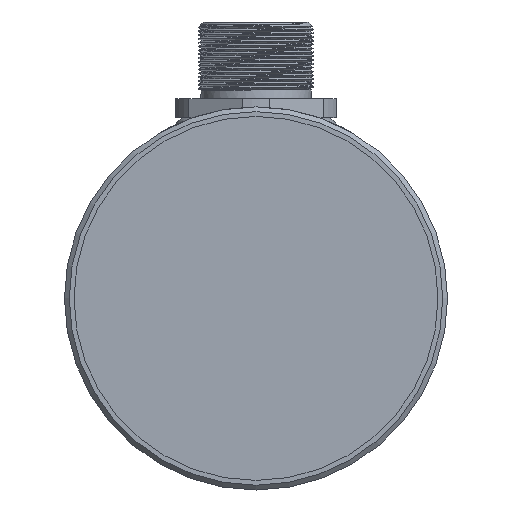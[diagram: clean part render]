
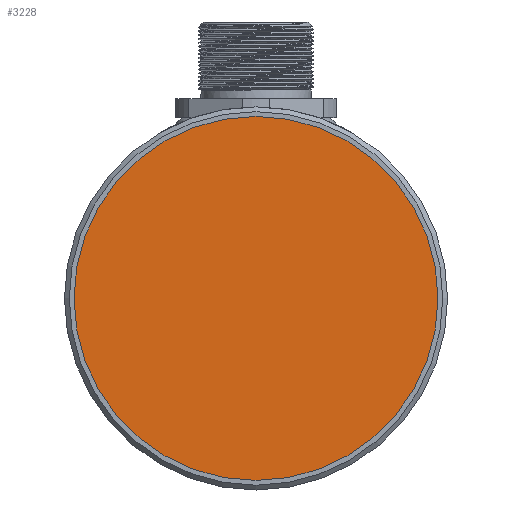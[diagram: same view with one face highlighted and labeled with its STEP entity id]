
A CAD part, left-side view. The second image highlights one B-rep face of the part: STEP entity #3228.
In plain terms, the highlighted planar face has unit normal (-1, 0, 0).
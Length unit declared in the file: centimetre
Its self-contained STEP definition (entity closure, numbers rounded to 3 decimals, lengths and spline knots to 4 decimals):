
#934=PLANE('',#3431);
#1006=CIRCLE('',#3429,1.9);
#1100=VERTEX_POINT('',#4250);
#1488=EDGE_CURVE('',#1100,#1100,#1006,.T.);
#1905=ORIENTED_EDGE('',*,*,#1488,.T.);
#2734=EDGE_LOOP('',(#1905));
#2983=FACE_BOUND('',#2734,.T.);
#3228=ADVANCED_FACE('',(#2983),#934,.T.);
#3429=AXIS2_PLACEMENT_3D('',#4249,#3662,#3663);
#3431=AXIS2_PLACEMENT_3D('',#4253,#3666,$);
#3662=DIRECTION('',(-1.,0.,0.));
#3663=DIRECTION('',(0.,0.,1.9));
#3666=DIRECTION('',(-1.,0.,0.));
#4249=CARTESIAN_POINT('',(0.1,0.,0.));
#4250=CARTESIAN_POINT('',(0.1,0.,1.9));
#4253=CARTESIAN_POINT('',(0.1,0.,0.));
